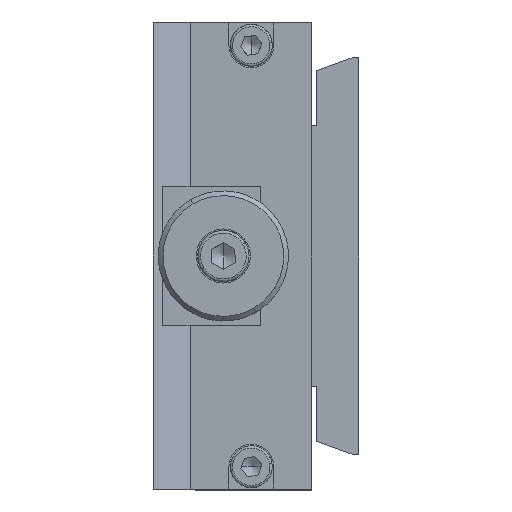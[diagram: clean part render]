
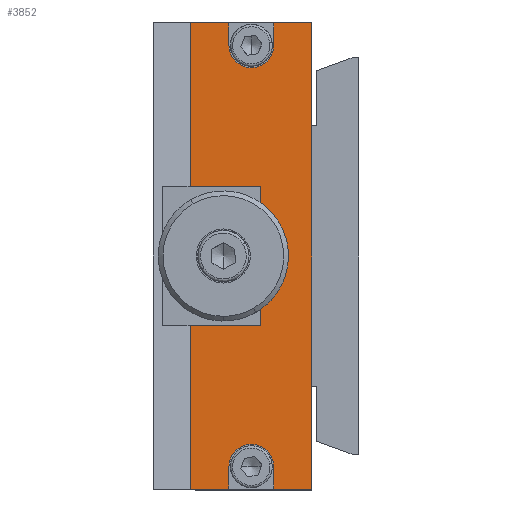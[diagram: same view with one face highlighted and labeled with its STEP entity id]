
A CAD part, left-side view. The second image highlights one B-rep face of the part: STEP entity #3852.
In plain terms, the highlighted planar face has unit normal (-1, 0, 0).
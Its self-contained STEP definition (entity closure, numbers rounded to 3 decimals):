
#3802 = EDGE_CURVE ( 'NONE', #3803, #13030, #7259, .T. ) ;
#3803 = VERTEX_POINT ( 'NONE', #7322 ) ;
#3806 = EDGE_CURVE ( 'NONE', #3824, #13179, #7321, .T. ) ;
#3811 = VERTEX_POINT ( 'NONE', #7307 ) ;
#3814 = EDGE_CURVE ( 'NONE', #13109, #3811, #7305, .T. ) ;
#3824 = VERTEX_POINT ( 'NONE', #7352 ) ;
#3840 = EDGE_CURVE ( 'NONE', #3803, #3861, #7328, .T. ) ;
#3841 = ORIENTED_EDGE ( 'NONE', *, *, #3802, .T. ) ;
#3842 = ORIENTED_EDGE ( 'NONE', *, *, #13027, .T. ) ;
#3843 = ORIENTED_EDGE ( 'NONE', *, *, #13048, .T. ) ;
#3844 = ORIENTED_EDGE ( 'NONE', *, *, #13014, .T. ) ;
#3845 = ORIENTED_EDGE ( 'NONE', *, *, #3873, .T. ) ;
#3846 = ORIENTED_EDGE ( 'NONE', *, *, #3847, .F. ) ;
#3847 = EDGE_CURVE ( 'NONE', #3879, #3871, #7389, .T. ) ;
#3848 = ORIENTED_EDGE ( 'NONE', *, *, #3878, .T. ) ;
#3849 = ORIENTED_EDGE ( 'NONE', *, *, #13127, .T. ) ;
#3850 = ORIENTED_EDGE ( 'NONE', *, *, #13147, .T. ) ;
#3852 = ADVANCED_FACE ( 'NONE', ( #7385 ), #7384, .T. ) ;
#3853 = EDGE_LOOP ( 'NONE', ( #3854, #3855, #3857, #3858, #3859, #3862, #3841, #3842, #3843, #3844, #3845, #3846, #3848, #3849, #3850, #3914 ) ) ;
#3854 = ORIENTED_EDGE ( 'NONE', *, *, #3814, .T. ) ;
#3855 = ORIENTED_EDGE ( 'NONE', *, *, #3856, .F. ) ;
#3856 = EDGE_CURVE ( 'NONE', #3824, #3811, #7379, .T. ) ;
#3857 = ORIENTED_EDGE ( 'NONE', *, *, #3806, .T. ) ;
#3858 = ORIENTED_EDGE ( 'NONE', *, *, #13176, .T. ) ;
#3859 = ORIENTED_EDGE ( 'NONE', *, *, #3860, .T. ) ;
#3860 = EDGE_CURVE ( 'NONE', #13173, #3861, #7375, .T. ) ;
#3861 = VERTEX_POINT ( 'NONE', #7371 ) ;
#3862 = ORIENTED_EDGE ( 'NONE', *, *, #3840, .F. ) ;
#3871 = VERTEX_POINT ( 'NONE', #7420 ) ;
#3873 = EDGE_CURVE ( 'NONE', #13010, #3871, #7419, .T. ) ;
#3878 = EDGE_CURVE ( 'NONE', #3879, #13128, #7415, .T. ) ;
#3879 = VERTEX_POINT ( 'NONE', #7411 ) ;
#3914 = ORIENTED_EDGE ( 'NONE', *, *, #13114, .T. ) ;
#7258 = CARTESIAN_POINT ( 'NONE',  ( 0., 6.352, 0. ) ) ;
#7259 = LINE ( 'NONE', #7258, #7324 ) ;
#7302 = DIRECTION ( 'NONE',  ( 0., 1., 0. ) ) ;
#7303 = VECTOR ( 'NONE', #7302, 1000. ) ;
#7304 = CARTESIAN_POINT ( 'NONE',  ( 0., 6.352, 50. ) ) ;
#7305 = LINE ( 'NONE', #7304, #7303 ) ;
#7307 = CARTESIAN_POINT ( 'NONE',  ( 0., 9.852, 50. ) ) ;
#7318 = DIRECTION ( 'NONE',  ( 0., -1., 0. ) ) ;
#7319 = VECTOR ( 'NONE', #7318, 1000. ) ;
#7320 = CARTESIAN_POINT ( 'NONE',  ( 0., 6.352, 32.5 ) ) ;
#7321 = LINE ( 'NONE', #7320, #7319 ) ;
#7322 = CARTESIAN_POINT ( 'NONE',  ( 0., 9.852, 0. ) ) ;
#7323 = DIRECTION ( 'NONE',  ( 0., -1., 0. ) ) ;
#7324 = VECTOR ( 'NONE', #7323, 1000. ) ;
#7325 = DIRECTION ( 'NONE',  ( 0., 0., 1. ) ) ;
#7326 = VECTOR ( 'NONE', #7325, 1000. ) ;
#7327 = CARTESIAN_POINT ( 'NONE',  ( 0., 9.852, 0. ) ) ;
#7328 = LINE ( 'NONE', #7327, #7326 ) ;
#7352 = CARTESIAN_POINT ( 'NONE',  ( 0., 9.852, 32.5 ) ) ;
#7371 = CARTESIAN_POINT ( 'NONE',  ( 0., 9.852, 17.5 ) ) ;
#7372 = DIRECTION ( 'NONE',  ( 0., 1., 0. ) ) ;
#7373 = VECTOR ( 'NONE', #7372, 1000. ) ;
#7374 = CARTESIAN_POINT ( 'NONE',  ( 0., 8.623, 17.5 ) ) ;
#7375 = LINE ( 'NONE', #7374, #7373 ) ;
#7376 = DIRECTION ( 'NONE',  ( 0., 0., 1. ) ) ;
#7377 = VECTOR ( 'NONE', #7376, 1000. ) ;
#7378 = CARTESIAN_POINT ( 'NONE',  ( 0., 9.852, 0. ) ) ;
#7379 = LINE ( 'NONE', #7378, #7377 ) ;
#7380 = DIRECTION ( 'NONE',  ( 0., -1., 0. ) ) ;
#7381 = DIRECTION ( 'NONE',  ( -1., 0., 0. ) ) ;
#7382 = CARTESIAN_POINT ( 'NONE',  ( 0., 6.352, 42.6 ) ) ;
#7383 = AXIS2_PLACEMENT_3D ( 'NONE', #7382, #7381, #7380 ) ;
#7384 = PLANE ( 'NONE',  #7383 ) ;
#7385 = FACE_OUTER_BOUND ( 'NONE', #3853, .T. ) ;
#7386 = DIRECTION ( 'NONE',  ( 0., 0., -1. ) ) ;
#7387 = VECTOR ( 'NONE', #7386, 1000. ) ;
#7388 = CARTESIAN_POINT ( 'NONE',  ( 0., -3.148, 0. ) ) ;
#7389 = LINE ( 'NONE', #7388, #7387 ) ;
#7411 = CARTESIAN_POINT ( 'NONE',  ( 0., -3.148, 50. ) ) ;
#7412 = DIRECTION ( 'NONE',  ( 0., 1., 0. ) ) ;
#7413 = VECTOR ( 'NONE', #7412, 1000. ) ;
#7414 = CARTESIAN_POINT ( 'NONE',  ( 0., 6.352, 50. ) ) ;
#7415 = LINE ( 'NONE', #7414, #7413 ) ;
#7416 = DIRECTION ( 'NONE',  ( 0., -1., 0. ) ) ;
#7417 = VECTOR ( 'NONE', #7416, 1000. ) ;
#7418 = CARTESIAN_POINT ( 'NONE',  ( 0., 6.352, 0. ) ) ;
#7419 = LINE ( 'NONE', #7418, #7417 ) ;
#7420 = CARTESIAN_POINT ( 'NONE',  ( 0., -3.148, 0. ) ) ;
#13010 = VERTEX_POINT ( 'NONE', #22112 ) ;
#13014 = EDGE_CURVE ( 'NONE', #13043, #13010, #22111, .T. ) ;
#13025 = VERTEX_POINT ( 'NONE', #22101 ) ;
#13027 = EDGE_CURVE ( 'NONE', #13030, #13074, #22100, .T. ) ;
#13030 = VERTEX_POINT ( 'NONE', #22096 ) ;
#13043 = VERTEX_POINT ( 'NONE', #22146 ) ;
#13048 = EDGE_CURVE ( 'NONE', #13074, #13043, #22145, .T. ) ;
#13074 = VERTEX_POINT ( 'NONE', #22182 ) ;
#13109 = VERTEX_POINT ( 'NONE', #22213 ) ;
#13114 = EDGE_CURVE ( 'NONE', #13143, #13109, #22212, .T. ) ;
#13127 = EDGE_CURVE ( 'NONE', #13128, #13025, #22197, .T. ) ;
#13128 = VERTEX_POINT ( 'NONE', #22259 ) ;
#13143 = VERTEX_POINT ( 'NONE', #22244 ) ;
#13147 = EDGE_CURVE ( 'NONE', #13025, #13143, #22242, .T. ) ;
#13173 = VERTEX_POINT ( 'NONE', #22278 ) ;
#13176 = EDGE_CURVE ( 'NONE', #13179, #13173, #22277, .T. ) ;
#13179 = VERTEX_POINT ( 'NONE', #22273 ) ;
#22096 = CARTESIAN_POINT ( 'NONE',  ( 0., 5.752, 0. ) ) ;
#22097 = DIRECTION ( 'NONE',  ( 0., 0., 1. ) ) ;
#22098 = VECTOR ( 'NONE', #22097, 1000. ) ;
#22099 = CARTESIAN_POINT ( 'NONE',  ( 0., 5.752, 42.6 ) ) ;
#22100 = LINE ( 'NONE', #22099, #22098 ) ;
#22101 = CARTESIAN_POINT ( 'NONE',  ( 0., 0.952, 47.6 ) ) ;
#22108 = DIRECTION ( 'NONE',  ( 0., 0., -1. ) ) ;
#22109 = VECTOR ( 'NONE', #22108, 1000. ) ;
#22110 = CARTESIAN_POINT ( 'NONE',  ( 0., 0.952, 42.6 ) ) ;
#22111 = LINE ( 'NONE', #22110, #22109 ) ;
#22112 = CARTESIAN_POINT ( 'NONE',  ( 0., 0.952, 0. ) ) ;
#22141 = DIRECTION ( 'NONE',  ( 0., 1., 0. ) ) ;
#22142 = DIRECTION ( 'NONE',  ( 1., 0., 0. ) ) ;
#22143 = CARTESIAN_POINT ( 'NONE',  ( 0., 3.352, 2.4 ) ) ;
#22144 = AXIS2_PLACEMENT_3D ( 'NONE', #22143, #22142, #22141 ) ;
#22145 = CIRCLE ( 'NONE', #22144, 2.4 ) ;
#22146 = CARTESIAN_POINT ( 'NONE',  ( 0., 0.952, 2.4 ) ) ;
#22182 = CARTESIAN_POINT ( 'NONE',  ( 0., 5.752, 2.4 ) ) ;
#22196 = CARTESIAN_POINT ( 'NONE',  ( 0., 0.952, 42.6 ) ) ;
#22197 = LINE ( 'NONE', #22196, #22261 ) ;
#22209 = DIRECTION ( 'NONE',  ( 0., 0., 1. ) ) ;
#22210 = VECTOR ( 'NONE', #22209, 1000. ) ;
#22211 = CARTESIAN_POINT ( 'NONE',  ( 0., 5.752, 42.6 ) ) ;
#22212 = LINE ( 'NONE', #22211, #22210 ) ;
#22213 = CARTESIAN_POINT ( 'NONE',  ( 0., 5.752, 50. ) ) ;
#22238 = DIRECTION ( 'NONE',  ( 0., 1., 0. ) ) ;
#22239 = DIRECTION ( 'NONE',  ( 1., 0., 0. ) ) ;
#22240 = CARTESIAN_POINT ( 'NONE',  ( 0., 3.352, 47.6 ) ) ;
#22241 = AXIS2_PLACEMENT_3D ( 'NONE', #22240, #22239, #22238 ) ;
#22242 = CIRCLE ( 'NONE', #22241, 2.4 ) ;
#22244 = CARTESIAN_POINT ( 'NONE',  ( 0., 5.752, 47.6 ) ) ;
#22259 = CARTESIAN_POINT ( 'NONE',  ( 0., 0.952, 50. ) ) ;
#22260 = DIRECTION ( 'NONE',  ( 0., 0., -1. ) ) ;
#22261 = VECTOR ( 'NONE', #22260, 1000. ) ;
#22273 = CARTESIAN_POINT ( 'NONE',  ( 0., 2.352, 32.5 ) ) ;
#22274 = DIRECTION ( 'NONE',  ( 0., 0., -1. ) ) ;
#22275 = VECTOR ( 'NONE', #22274, 1000. ) ;
#22276 = CARTESIAN_POINT ( 'NONE',  ( 0., 2.352, 42.6 ) ) ;
#22277 = LINE ( 'NONE', #22276, #22275 ) ;
#22278 = CARTESIAN_POINT ( 'NONE',  ( 0., 2.352, 17.5 ) ) ;
